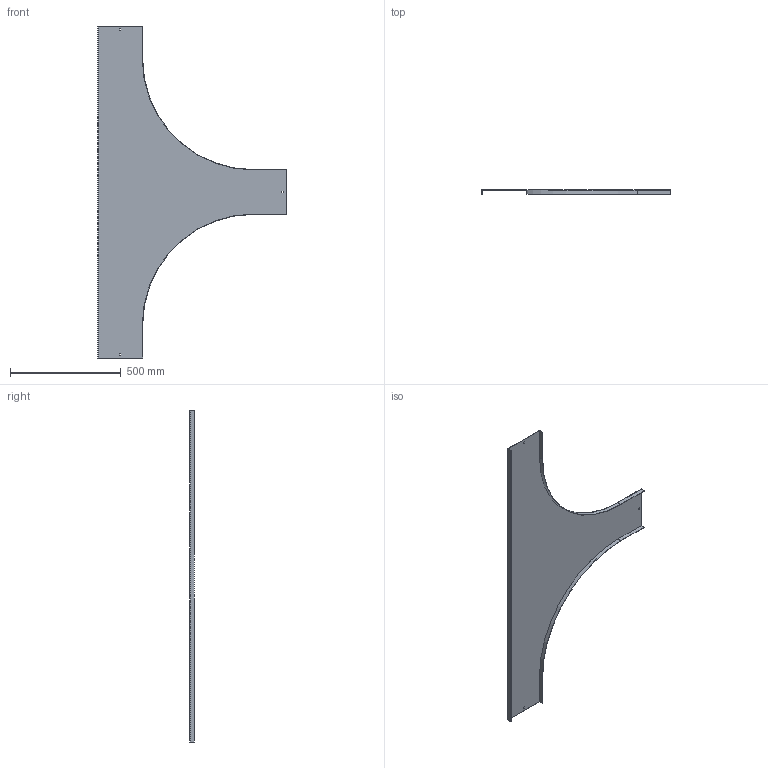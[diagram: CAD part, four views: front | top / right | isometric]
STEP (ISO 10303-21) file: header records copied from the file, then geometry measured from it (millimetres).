
FILE_DESCRIPTION (( 'STEP AP214' ), '1' );
FILE_NAME ('15N5R200.step', '2025-02-21T14:38:40', ( '' ), ( '' ), 'SwSTEP 2.0', 'SolidWorks 2023', '' );
FILE_SCHEMA (( 'AUTOMOTIVE_DESIGN' ));
Length unit declared in the file: millimetre
Products named in the file (1): 15N5R200
Bounding box: 851.5 x 20 x 1500 mm (x, y, z)
Volume: 915741.3 mm3; surface area: 1227707.1 mm2
Topology: 1 solids, 1 shells, 34 faces, 96 edges, 64 vertices
Faces by surface type: plane 30, cylinder 4
Entity records: 1123 total; most frequent: CARTESIAN_POINT 195, ORIENTED_EDGE 192, DIRECTION 174, EDGE_CURVE 96, VECTOR 88, LINE 88, VERTEX_POINT 64, AXIS2_PLACEMENT_3D 43
